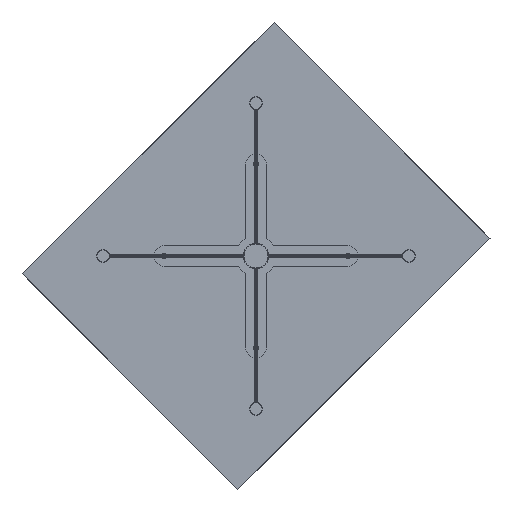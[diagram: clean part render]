
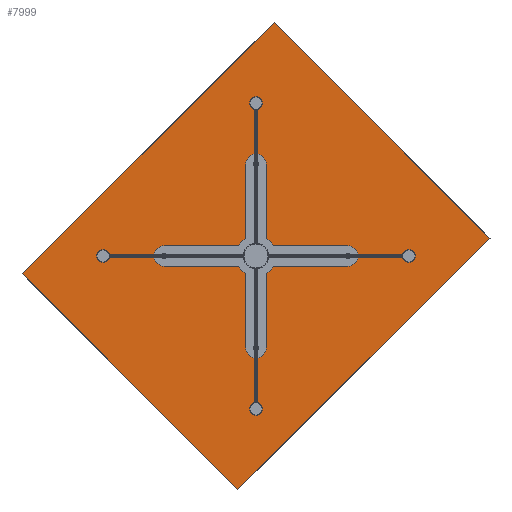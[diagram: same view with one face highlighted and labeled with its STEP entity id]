
A CAD part, front view. The second image highlights one B-rep face of the part: STEP entity #7999.
In plain terms, the highlighted planar face has unit normal (0, -1, 0).
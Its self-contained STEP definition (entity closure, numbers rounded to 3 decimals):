
#172 = CARTESIAN_POINT ( 'NONE',  ( -299., -10., -349. ) ) ;
#187 = CIRCLE ( 'NONE', #7346, 4. ) ;
#191 = CIRCLE ( 'NONE', #7554, 4. ) ;
#235 = EDGE_CURVE ( 'NONE', #9827, #7853, #8884, .T. ) ;
#319 = CARTESIAN_POINT ( 'NONE',  ( -300., -10., 349. ) ) ;
#413 = DIRECTION ( 'NONE',  ( 0., 0., -1. ) ) ;
#618 = CARTESIAN_POINT ( 'NONE',  ( -299., -10., -350. ) ) ;
#625 = VECTOR ( 'NONE', #9547, 1000. ) ;
#664 = CARTESIAN_POINT ( 'NONE',  ( 127.5, -10., 123.058 ) ) ;
#768 = VERTEX_POINT ( 'NONE', #664 ) ;
#806 = AXIS2_PLACEMENT_3D ( 'NONE', #1631, #4412, #7538 ) ;
#1261 = ORIENTED_EDGE ( 'NONE', *, *, #5294, .T. ) ;
#1348 = AXIS2_PLACEMENT_3D ( 'NONE', #2236, #6053, #9721 ) ;
#1510 = EDGE_LOOP ( 'NONE', ( #10196, #9730 ) ) ;
#1562 = VERTEX_POINT ( 'NONE', #10359 ) ;
#1631 = CARTESIAN_POINT ( 'NONE',  ( -127.5, -10., 127.058 ) ) ;
#1681 = VERTEX_POINT ( 'NONE', #9433 ) ;
#1707 = CARTESIAN_POINT ( 'NONE',  ( -127.5, -10., -127.058 ) ) ;
#2228 = VERTEX_POINT ( 'NONE', #10326 ) ;
#2236 = CARTESIAN_POINT ( 'NONE',  ( 127.5, -10., 127.058 ) ) ;
#2406 = EDGE_CURVE ( 'NONE', #1681, #768, #6184, .T. ) ;
#2489 = AXIS2_PLACEMENT_3D ( 'NONE', #5350, #11790, #11849 ) ;
#2557 = DIRECTION ( 'NONE',  ( 0., 1., 0. ) ) ;
#2598 = VERTEX_POINT ( 'NONE', #4221 ) ;
#2614 = CARTESIAN_POINT ( 'NONE',  ( 300., -10., -349. ) ) ;
#2727 = EDGE_LOOP ( 'NONE', ( #1261, #3015 ) ) ;
#2770 = CARTESIAN_POINT ( 'NONE',  ( 299., -10., 350. ) ) ;
#2834 = VERTEX_POINT ( 'NONE', #7453 ) ;
#2924 = CARTESIAN_POINT ( 'NONE',  ( 127.5, -10., -123.058 ) ) ;
#3015 = ORIENTED_EDGE ( 'NONE', *, *, #2406, .T. ) ;
#3107 = DIRECTION ( 'NONE',  ( 0., 1., 0. ) ) ;
#3151 = VERTEX_POINT ( 'NONE', #6446 ) ;
#3228 = FACE_BOUND ( 'NONE', #2727, .T. ) ;
#3284 = AXIS2_PLACEMENT_3D ( 'NONE', #7873, #8973, #413 ) ;
#3337 = CARTESIAN_POINT ( 'NONE',  ( 0., -10., 0. ) ) ;
#3566 = PLANE ( 'NONE',  #10593 ) ;
#3666 = EDGE_CURVE ( 'NONE', #8069, #6426, #8021, .T. ) ;
#3749 = DIRECTION ( 'NONE',  ( 0., 1., 0. ) ) ;
#3841 = CIRCLE ( 'NONE', #2489, 4. ) ;
#4168 = AXIS2_PLACEMENT_3D ( 'NONE', #5048, #3107, #9743 ) ;
#4221 = CARTESIAN_POINT ( 'NONE',  ( -127.5, -10., -131.058 ) ) ;
#4412 = DIRECTION ( 'NONE',  ( 0., 1., 0. ) ) ;
#4646 = ORIENTED_EDGE ( 'NONE', *, *, #3666, .T. ) ;
#4746 = CIRCLE ( 'NONE', #4168, 4. ) ;
#4927 = EDGE_CURVE ( 'NONE', #2834, #2228, #6540, .T. ) ;
#4973 = ORIENTED_EDGE ( 'NONE', *, *, #235, .T. ) ;
#5048 = CARTESIAN_POINT ( 'NONE',  ( -127.5, -10., -127.058 ) ) ;
#5238 = EDGE_CURVE ( 'NONE', #2598, #3151, #187, .T. ) ;
#5294 = EDGE_CURVE ( 'NONE', #768, #1681, #3841, .T. ) ;
#5350 = CARTESIAN_POINT ( 'NONE',  ( 127.5, -10., 127.058 ) ) ;
#5614 = EDGE_LOOP ( 'NONE', ( #4973, #6917 ) ) ;
#5751 = EDGE_CURVE ( 'NONE', #3151, #2598, #4746, .T. ) ;
#5984 = EDGE_CURVE ( 'NONE', #1562, #6077, #6042, .T. ) ;
#6017 = FACE_BOUND ( 'NONE', #6315, .T. ) ;
#6042 = CIRCLE ( 'NONE', #806, 4. ) ;
#6053 = DIRECTION ( 'NONE',  ( 0., 1., 0. ) ) ;
#6077 = VERTEX_POINT ( 'NONE', #8453 ) ;
#6184 = CIRCLE ( 'NONE', #1348, 4. ) ;
#6191 = DIRECTION ( 'NONE',  ( 0., -1., 0. ) ) ;
#6209 = EDGE_CURVE ( 'NONE', #2228, #8069, #6748, .T. ) ;
#6227 = ORIENTED_EDGE ( 'NONE', *, *, #7697, .T. ) ;
#6315 = EDGE_LOOP ( 'NONE', ( #8260, #8067 ) ) ;
#6406 = DIRECTION ( 'NONE',  ( 0., 0., -1. ) ) ;
#6426 = VERTEX_POINT ( 'NONE', #172 ) ;
#6446 = CARTESIAN_POINT ( 'NONE',  ( -127.5, -10., -123.058 ) ) ;
#6477 = DIRECTION ( 'NONE',  ( 0., 0., 1. ) ) ;
#6540 = LINE ( 'NONE', #2770, #10209 ) ;
#6608 = VECTOR ( 'NONE', #7230, 1000. ) ;
#6748 = LINE ( 'NONE', #319, #625 ) ;
#6917 = ORIENTED_EDGE ( 'NONE', *, *, #10212, .T. ) ;
#6943 = FACE_BOUND ( 'NONE', #1510, .T. ) ;
#7207 = ORIENTED_EDGE ( 'NONE', *, *, #6209, .T. ) ;
#7230 = DIRECTION ( 'NONE',  ( 0., 0., -1. ) ) ;
#7235 = EDGE_LOOP ( 'NONE', ( #4646, #6227, #9580, #7207 ) ) ;
#7346 = AXIS2_PLACEMENT_3D ( 'NONE', #1707, #2557, #9016 ) ;
#7453 = CARTESIAN_POINT ( 'NONE',  ( 299., -10., -349. ) ) ;
#7538 = DIRECTION ( 'NONE',  ( 0., 0., -1. ) ) ;
#7554 = AXIS2_PLACEMENT_3D ( 'NONE', #8256, #3749, #9300 ) ;
#7607 = CARTESIAN_POINT ( 'NONE',  ( 127.5, -10., -131.058 ) ) ;
#7697 = EDGE_CURVE ( 'NONE', #6426, #2834, #10830, .T. ) ;
#7853 = VERTEX_POINT ( 'NONE', #2924 ) ;
#7873 = CARTESIAN_POINT ( 'NONE',  ( -127.5, -10., 127.058 ) ) ;
#7999 = ADVANCED_FACE ( 'NONE', ( #11548, #3228, #6943, #6017, #9850 ), #3566, .T. ) ;
#8021 = LINE ( 'NONE', #618, #6608 ) ;
#8067 = ORIENTED_EDGE ( 'NONE', *, *, #5751, .T. ) ;
#8069 = VERTEX_POINT ( 'NONE', #11777 ) ;
#8256 = CARTESIAN_POINT ( 'NONE',  ( 127.5, -10., -127.058 ) ) ;
#8260 = ORIENTED_EDGE ( 'NONE', *, *, #5238, .T. ) ;
#8421 = DIRECTION ( 'NONE',  ( 0., 1., 0. ) ) ;
#8453 = CARTESIAN_POINT ( 'NONE',  ( -127.5, -10., 131.058 ) ) ;
#8884 = CIRCLE ( 'NONE', #9852, 4. ) ;
#8973 = DIRECTION ( 'NONE',  ( 0., 1., 0. ) ) ;
#9016 = DIRECTION ( 'NONE',  ( 0., 0., -1. ) ) ;
#9212 = VECTOR ( 'NONE', #10886, 1000. ) ;
#9300 = DIRECTION ( 'NONE',  ( 0., 0., -1. ) ) ;
#9433 = CARTESIAN_POINT ( 'NONE',  ( 127.5, -10., 131.058 ) ) ;
#9502 = CIRCLE ( 'NONE', #3284, 4. ) ;
#9547 = DIRECTION ( 'NONE',  ( -1., 0., 0. ) ) ;
#9580 = ORIENTED_EDGE ( 'NONE', *, *, #4927, .T. ) ;
#9721 = DIRECTION ( 'NONE',  ( 0., 0., -1. ) ) ;
#9730 = ORIENTED_EDGE ( 'NONE', *, *, #11181, .T. ) ;
#9743 = DIRECTION ( 'NONE',  ( 0., 0., -1. ) ) ;
#9827 = VERTEX_POINT ( 'NONE', #7607 ) ;
#9850 = FACE_BOUND ( 'NONE', #5614, .T. ) ;
#9852 = AXIS2_PLACEMENT_3D ( 'NONE', #10304, #8421, #6406 ) ;
#10196 = ORIENTED_EDGE ( 'NONE', *, *, #5984, .T. ) ;
#10209 = VECTOR ( 'NONE', #6477, 1000. ) ;
#10212 = EDGE_CURVE ( 'NONE', #7853, #9827, #191, .T. ) ;
#10304 = CARTESIAN_POINT ( 'NONE',  ( 127.5, -10., -127.058 ) ) ;
#10326 = CARTESIAN_POINT ( 'NONE',  ( 299., -10., 349. ) ) ;
#10359 = CARTESIAN_POINT ( 'NONE',  ( -127.5, -10., 123.058 ) ) ;
#10593 = AXIS2_PLACEMENT_3D ( 'NONE', #3337, #6191, #10814 ) ;
#10814 = DIRECTION ( 'NONE',  ( 0., 0., -1. ) ) ;
#10830 = LINE ( 'NONE', #2614, #9212 ) ;
#10886 = DIRECTION ( 'NONE',  ( 1., 0., 0. ) ) ;
#11181 = EDGE_CURVE ( 'NONE', #6077, #1562, #9502, .T. ) ;
#11548 = FACE_OUTER_BOUND ( 'NONE', #7235, .T. ) ;
#11777 = CARTESIAN_POINT ( 'NONE',  ( -299., -10., 349. ) ) ;
#11790 = DIRECTION ( 'NONE',  ( 0., 1., 0. ) ) ;
#11849 = DIRECTION ( 'NONE',  ( 0., 0., -1. ) ) ;
